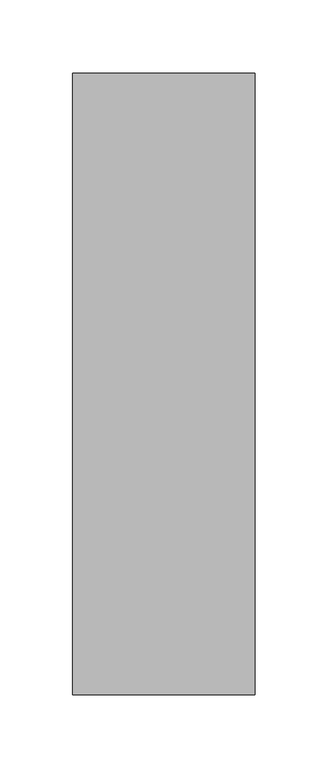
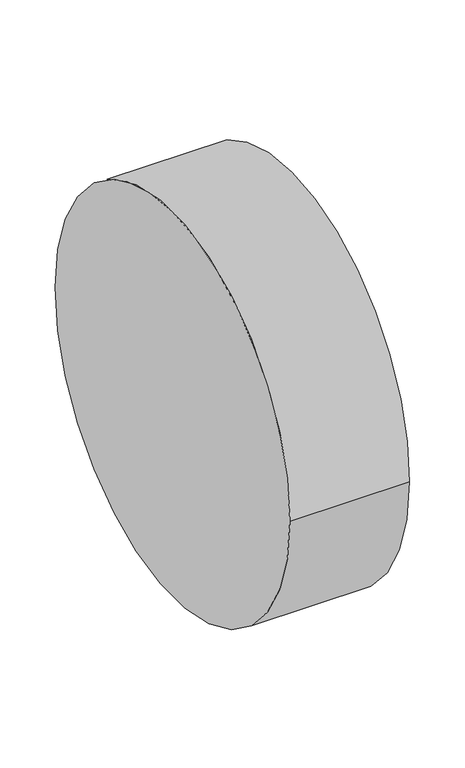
"""IFC4 building model written with IfcOpenShell, lengths in millimetres: pipe fitting geometry, ADSK_ДетальСтальнаяСварная_Заглушка_ГОСТ17379-2001 : Исполнение 2."""

from ifc_helpers import new_model, si_unit, point, frame, origin, origin_2d, place, context, project, spatial, circle_curve, trimmed, segment, composite_curve, outline, extrude, source, transform, mapped, element, save


def pipe_fitting_74aa09d1(model_context):
    return source(origin(), model_context, "Body", "SweptSolid", [
        extrude(outline(composite_curve([segment(trimmed(circle_curve(origin_2d(), 213.0), [point((-213.0, 0.0))], [point((213.0, 0.0))], False, "CARTESIAN"), True, "CONTINUOUS"), segment(trimmed(circle_curve(origin_2d(), 213.0), [point((213.0, 0.0))], [point((-213.0, 0.0))], False, "CARTESIAN"), True, "CONTINUOUS")], self_intersect=False)), frame((0.0, 0.0, 0.0), z_axis=(1.0, 0.0, 0.0), x_axis=(0.0, 1.0, 0.0)), (0.0, 0.0, 1.0), 125.0),
    ])


if __name__ == "__main__":
    model = new_model("IFC4")
    model_context = context("Model", 3, world=origin())
    ifc_project = project(units=[si_unit("LENGTHUNIT", "METRE", prefix="MILLI")], contexts=[model_context])
    site = spatial("IfcSite", under=ifc_project)
    building = spatial("IfcBuilding", under=site)
    placement = place(None, origin())
    pipe_fitting_shape = pipe_fitting_74aa09d1(model_context)
    element("IfcPipeFitting", 1, ObjectType="ADSK_ДетальСтальнаяСварная_Заглушка_ГОСТ17379-2001 : Исполнение 2", at=placement, inside=building, context=model_context, shape_type="MappedRepresentation", body=[
        mapped(pipe_fitting_shape, transform((0.0, 0.0, 0.0), x_axis=(1.0, 0.0, 0.0), y_axis=(0.0, 1.0, 0.0), z_axis=(0.0, 0.0, 1.0))),
    ])
    save(model, "model.ifc")
